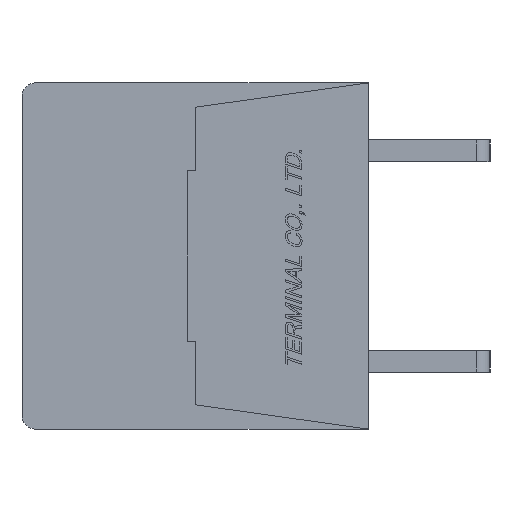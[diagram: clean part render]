
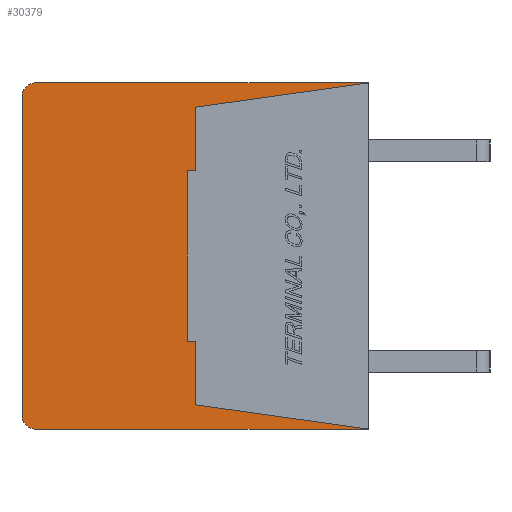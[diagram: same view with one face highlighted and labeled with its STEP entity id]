
A CAD part, left-side view. The second image highlights one B-rep face of the part: STEP entity #30379.
In plain terms, the highlighted planar face has unit normal (-1, 0, 0).
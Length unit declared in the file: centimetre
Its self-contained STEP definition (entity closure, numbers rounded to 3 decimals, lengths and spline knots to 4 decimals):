
#1573=CIRCLE('',#51839,0.05);
#1574=CIRCLE('',#51842,0.05);
#2901=VERTEX_POINT('',#42641);
#2902=VERTEX_POINT('',#42643);
#2903=VERTEX_POINT('',#42647);
#2904=VERTEX_POINT('',#42651);
#2905=VERTEX_POINT('',#42655);
#2906=VERTEX_POINT('',#42659);
#2907=VERTEX_POINT('',#42662);
#2908=VERTEX_POINT('',#42664);
#2909=VERTEX_POINT('',#42666);
#2910=VERTEX_POINT('',#42668);
#2911=VERTEX_POINT('',#42670);
#2912=VERTEX_POINT('',#42672);
#6070=VECTOR('',#35261,1.);
#6074=VECTOR('',#35270,1.);
#6077=VECTOR('',#35278,1.);
#6078=VECTOR('',#35279,1.);
#6079=VECTOR('',#35280,1.);
#6080=VECTOR('',#35281,1.);
#6081=VECTOR('',#35282,1.);
#6082=VECTOR('',#35283,1.);
#6083=VECTOR('',#35284,1.);
#6084=VECTOR('',#35285,1.);
#9641=LINE('',#42642,#6070);
#9645=LINE('',#42652,#6074);
#9648=LINE('',#42660,#6077);
#9649=LINE('',#42661,#6078);
#9650=LINE('',#42663,#6079);
#9651=LINE('',#42665,#6080);
#9652=LINE('',#42667,#6081);
#9653=LINE('',#42669,#6082);
#9654=LINE('',#42671,#6083);
#9655=LINE('',#42673,#6084);
#13682=EDGE_CURVE('',#2902,#2901,#9641,.T.);
#13685=EDGE_CURVE('',#2903,#2901,#1573,.T.);
#13687=EDGE_CURVE('',#2903,#2904,#9645,.T.);
#13689=EDGE_CURVE('',#2905,#2904,#1574,.T.);
#13691=EDGE_CURVE('',#2905,#2906,#9648,.T.);
#13692=EDGE_CURVE('',#2907,#2902,#9649,.T.);
#13693=EDGE_CURVE('',#2906,#2908,#9650,.T.);
#13694=EDGE_CURVE('',#2908,#2909,#9651,.T.);
#13695=EDGE_CURVE('',#2909,#2910,#9652,.T.);
#13696=EDGE_CURVE('',#2910,#2911,#9653,.T.);
#13697=EDGE_CURVE('',#2911,#2912,#9654,.T.);
#13698=EDGE_CURVE('',#2912,#2907,#9655,.T.);
#19905=ORIENTED_EDGE('',*,*,#13692,.T.);
#19906=ORIENTED_EDGE('',*,*,#13682,.T.);
#19907=ORIENTED_EDGE('',*,*,#13685,.F.);
#19908=ORIENTED_EDGE('',*,*,#13687,.T.);
#19909=ORIENTED_EDGE('',*,*,#13689,.F.);
#19910=ORIENTED_EDGE('',*,*,#13691,.T.);
#19911=ORIENTED_EDGE('',*,*,#13693,.T.);
#19912=ORIENTED_EDGE('',*,*,#13694,.T.);
#19913=ORIENTED_EDGE('',*,*,#13695,.T.);
#19914=ORIENTED_EDGE('',*,*,#13696,.T.);
#19915=ORIENTED_EDGE('',*,*,#13697,.T.);
#19916=ORIENTED_EDGE('',*,*,#13698,.T.);
#26493=EDGE_LOOP('',(#19905,#19906,#19907,#19908,#19909,#19910,#19911,#19912,
#19913,#19914,#19915,#19916));
#28478=FACE_BOUND('',#26493,.T.);
#30379=ADVANCED_FACE('',(#28478),#31991,.F.);
#31991=PLANE('',#51836);
#35147=DIRECTION('',(1.,0.,0.));
#35261=DIRECTION('',(0.,1.,0.));
#35266=DIRECTION('',(1.,0.,0.));
#35267=DIRECTION('',(0.,0.,-0.05));
#35270=DIRECTION('',(0.,0.,-1.));
#35274=DIRECTION('',(1.,0.,0.));
#35275=DIRECTION('',(0.,0.,-0.05));
#35278=DIRECTION('',(0.,-1.,0.));
#35279=DIRECTION('',(0.,-0.99,0.139));
#35280=DIRECTION('',(0.,0.99,0.139));
#35281=DIRECTION('',(0.,0.,1.));
#35282=DIRECTION('',(0.,1.,0.));
#35283=DIRECTION('',(0.,0.,1.));
#35284=DIRECTION('',(0.,-1.,0.));
#35285=DIRECTION('',(0.,0.,1.));
#42208=CARTESIAN_POINT('',(-1.,0.6345,0.));
#42641=CARTESIAN_POINT('',(-1.,1.23,0.64));
#42642=CARTESIAN_POINT('',(-1.,0.,0.64));
#42643=CARTESIAN_POINT('',(-1.,0.,0.64));
#42647=CARTESIAN_POINT('',(-1.,1.28,0.59));
#42648=CARTESIAN_POINT('',(-1.,1.23,0.59));
#42651=CARTESIAN_POINT('',(-1.,1.28,-0.59));
#42652=CARTESIAN_POINT('',(-1.,1.28,0.59));
#42655=CARTESIAN_POINT('',(-1.,1.23,-0.64));
#42656=CARTESIAN_POINT('',(-1.,1.23,-0.59));
#42659=CARTESIAN_POINT('',(-1.,0.,-0.64));
#42660=CARTESIAN_POINT('',(-1.,1.23,-0.64));
#42661=CARTESIAN_POINT('',(-1.,0.64,0.55));
#42662=CARTESIAN_POINT('',(-1.,0.64,0.55));
#42663=CARTESIAN_POINT('',(-1.,0.,-0.64));
#42664=CARTESIAN_POINT('',(-1.,0.64,-0.55));
#42665=CARTESIAN_POINT('',(-1.,0.64,-0.55));
#42666=CARTESIAN_POINT('',(-1.,0.64,-0.315));
#42667=CARTESIAN_POINT('',(-1.,0.64,-0.315));
#42668=CARTESIAN_POINT('',(-1.,0.67,-0.315));
#42669=CARTESIAN_POINT('',(-1.,0.67,-0.315));
#42670=CARTESIAN_POINT('',(-1.,0.67,0.315));
#42671=CARTESIAN_POINT('',(-1.,0.67,0.315));
#42672=CARTESIAN_POINT('',(-1.,0.64,0.315));
#42673=CARTESIAN_POINT('',(-1.,0.64,0.315));
#51836=AXIS2_PLACEMENT_3D('',#42208,#35147,$);
#51839=AXIS2_PLACEMENT_3D('',#42648,#35266,#35267);
#51842=AXIS2_PLACEMENT_3D('',#42656,#35274,#35275);
